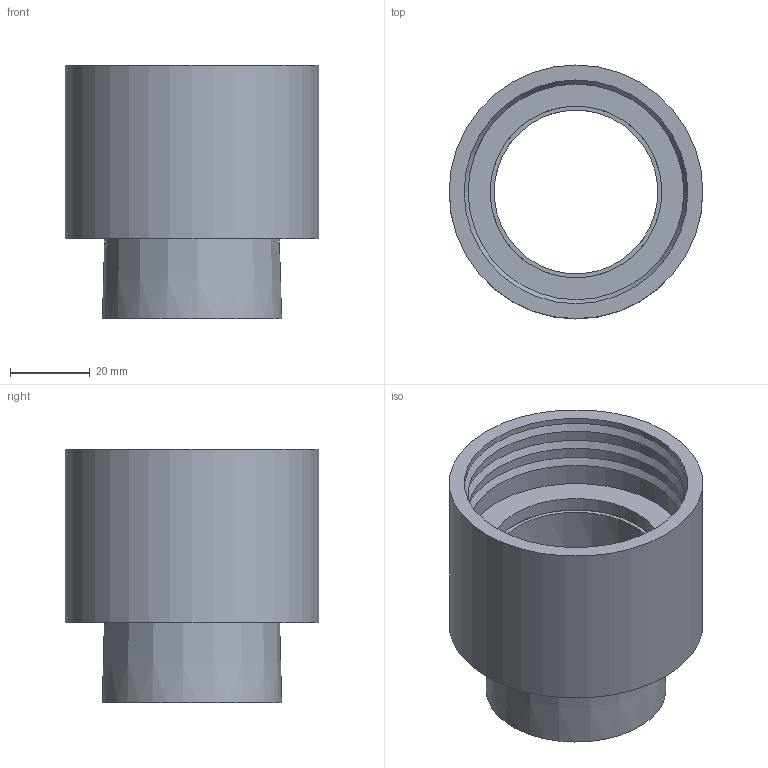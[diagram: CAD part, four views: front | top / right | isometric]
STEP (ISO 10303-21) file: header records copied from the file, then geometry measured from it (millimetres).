
FILE_DESCRIPTION(/* description */ (''),/* implementation_level */ '2;1');
FILE_NAME(/* name */ 'Z:\Geberit\Export\NewStep\359140.stp',/* time_stamp */ '2014-04-01T20:54:54+02:00',/* author */ ('ML'),/* organization */ (''),/* preprocessor_version */ 'ST-DEVELOPER v15.2',/* originating_system */ 'Autodesk Inventor 2014',/* authorisation */ '');
FILE_SCHEMA (('AUTOMOTIVE_DESIGN { 1 0 10303 214 3 1 1 }'));
Length unit declared in the file: millimetre
Products named in the file (3): 887353; 887359; 359140
Bounding box: 63.5 x 63.5 x 63.5 mm (x, y, z)
Volume: 53468.6 mm3; surface area: 31381.5 mm2
Topology: 2 solids, 2 shells, 30 faces, 48 edges, 30 vertices
Faces by surface type: plane 12, cylinder 10, cone 8
Full cylindrical faces by diameter (mm): 43 x1, 48 x4, 56 x4, 63.5 x1
Entity records: 709 total; most frequent: DIRECTION 130, CARTESIAN_POINT 95, AXIS2_PLACEMENT_3D 65, EDGE_LOOP 60, ORIENTED_EDGE 60, FACE_BOUND 37, STYLED_ITEM 32, CIRCLE 30
